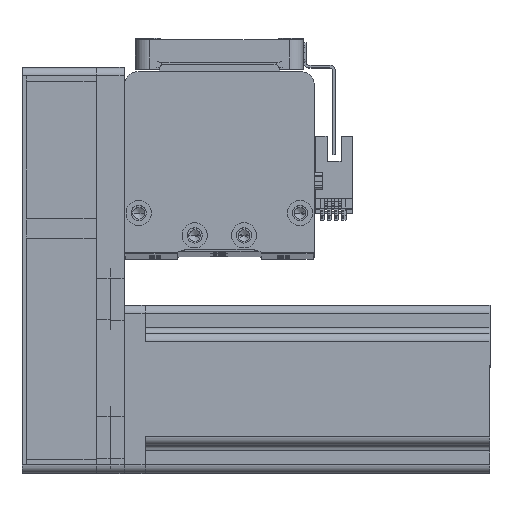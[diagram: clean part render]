
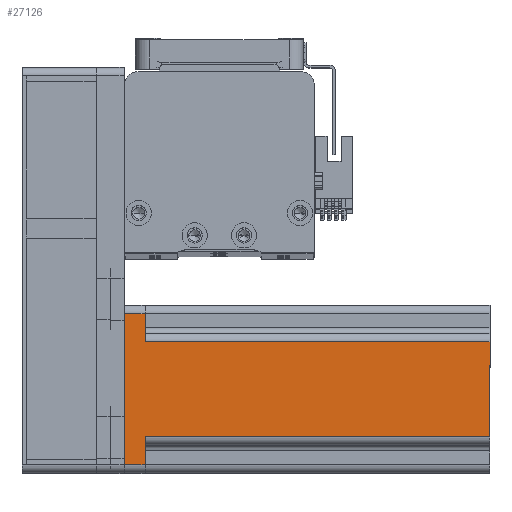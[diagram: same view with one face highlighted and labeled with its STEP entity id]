
A CAD part, top view. The second image highlights one B-rep face of the part: STEP entity #27126.
In plain terms, the highlighted planar face has unit normal (0, 0, 1) as drawn and (0, -1, 0) by its records, which use the part's own axes.
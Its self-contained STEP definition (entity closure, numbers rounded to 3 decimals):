
#599 = ORIENTED_EDGE ( 'NONE', *, *, #28586, .T. ) ;
#944 = AXIS2_PLACEMENT_3D ( 'NONE', #41539, #18143, #45456 ) ;
#2460 = ORIENTED_EDGE ( 'NONE', *, *, #18374, .T. ) ;
#3584 = VERTEX_POINT ( 'NONE', #50164 ) ;
#3692 = VECTOR ( 'NONE', #37699, 1000. ) ;
#3914 = CARTESIAN_POINT ( 'NONE',  ( 20., -30., 7.5 ) ) ;
#4380 = VERTEX_POINT ( 'NONE', #33176 ) ;
#5533 = DIRECTION ( 'NONE',  ( 1., 0., 0. ) ) ;
#6134 = CARTESIAN_POINT ( 'NONE',  ( 27., -30., 130.7 ) ) ;
#6614 = ORIENTED_EDGE ( 'NONE', *, *, #49919, .F. ) ;
#6830 = LINE ( 'NONE', #24925, #26299 ) ;
#7861 = CARTESIAN_POINT ( 'NONE',  ( 17., -30., 130.7 ) ) ;
#8470 = ORIENTED_EDGE ( 'NONE', *, *, #45573, .T. ) ;
#8515 = DIRECTION ( 'NONE',  ( 1., 0., 0. ) ) ;
#8753 = LINE ( 'NONE', #7861, #27059 ) ;
#8825 = EDGE_CURVE ( 'NONE', #25450, #42089, #50221, .T. ) ;
#9721 = CARTESIAN_POINT ( 'NONE',  ( -17., -30., 7.5 ) ) ;
#10812 = VERTEX_POINT ( 'NONE', #46953 ) ;
#12400 = VECTOR ( 'NONE', #41220, 1000. ) ;
#12677 = ORIENTED_EDGE ( 'NONE', *, *, #33015, .T. ) ;
#14389 = VECTOR ( 'NONE', #39716, 1000. ) ;
#16678 = VECTOR ( 'NONE', #8515, 1000. ) ;
#17037 = VERTEX_POINT ( 'NONE', #47899 ) ;
#17873 = CARTESIAN_POINT ( 'NONE',  ( -27., -30., 0. ) ) ;
#18143 = DIRECTION ( 'NONE',  ( 0., 1., 0. ) ) ;
#18374 = EDGE_CURVE ( 'NONE', #4380, #47189, #22800, .T. ) ;
#18764 = VECTOR ( 'NONE', #30975, 1000. ) ;
#19420 = ORIENTED_EDGE ( 'NONE', *, *, #26845, .F. ) ;
#20227 = CARTESIAN_POINT ( 'NONE',  ( -27., -30., 130.7 ) ) ;
#22800 = LINE ( 'NONE', #6134, #12400 ) ;
#23361 = EDGE_LOOP ( 'NONE', ( #19420, #8470, #6614, #34100, #12677, #2460, #599, #27403 ) ) ;
#23792 = VERTEX_POINT ( 'NONE', #9721 ) ;
#24750 = LINE ( 'NONE', #3914, #14389 ) ;
#24925 = CARTESIAN_POINT ( 'NONE',  ( -20., -30., 7.5 ) ) ;
#25450 = VERTEX_POINT ( 'NONE', #40521 ) ;
#25844 = PLANE ( 'NONE',  #944 ) ;
#26299 = VECTOR ( 'NONE', #5533, 1000. ) ;
#26435 = CARTESIAN_POINT ( 'NONE',  ( 30., -30., 0. ) ) ;
#26845 = EDGE_CURVE ( 'NONE', #10812, #3584, #37457, .T. ) ;
#27032 = FACE_OUTER_BOUND ( 'NONE', #23361, .T. ) ;
#27059 = VECTOR ( 'NONE', #39049, 1000. ) ;
#27126 = ADVANCED_FACE ( 'NONE', ( #27032 ), #25844, .F. ) ;
#27232 = CARTESIAN_POINT ( 'NONE',  ( -17., -30., 130.7 ) ) ;
#27403 = ORIENTED_EDGE ( 'NONE', *, *, #35611, .T. ) ;
#28586 = EDGE_CURVE ( 'NONE', #47189, #17037, #24750, .T. ) ;
#30975 = DIRECTION ( 'NONE',  ( 0., 0., -1. ) ) ;
#31843 = CARTESIAN_POINT ( 'NONE',  ( 30., -30., 130.7 ) ) ;
#33015 = EDGE_CURVE ( 'NONE', #42089, #4380, #33571, .T. ) ;
#33176 = CARTESIAN_POINT ( 'NONE',  ( 27., -30., 0. ) ) ;
#33571 = LINE ( 'NONE', #26435, #3692 ) ;
#34100 = ORIENTED_EDGE ( 'NONE', *, *, #8825, .T. ) ;
#35611 = EDGE_CURVE ( 'NONE', #17037, #3584, #8753, .T. ) ;
#37457 = LINE ( 'NONE', #31843, #16678 ) ;
#37699 = DIRECTION ( 'NONE',  ( 1., 0., 0. ) ) ;
#39049 = DIRECTION ( 'NONE',  ( 0., 0., 1. ) ) ;
#39716 = DIRECTION ( 'NONE',  ( -1., 0., 0. ) ) ;
#40521 = CARTESIAN_POINT ( 'NONE',  ( -27., -30., 7.5 ) ) ;
#41220 = DIRECTION ( 'NONE',  ( 0., 0., 1. ) ) ;
#41539 = CARTESIAN_POINT ( 'NONE',  ( 30., -30., 130.7 ) ) ;
#42089 = VERTEX_POINT ( 'NONE', #17873 ) ;
#44098 = CARTESIAN_POINT ( 'NONE',  ( 27., -30., 7.5 ) ) ;
#45456 = DIRECTION ( 'NONE',  ( -1., 0., 0. ) ) ;
#45573 = EDGE_CURVE ( 'NONE', #10812, #23792, #48673, .T. ) ;
#46953 = CARTESIAN_POINT ( 'NONE',  ( -17., -30., 130.7 ) ) ;
#47189 = VERTEX_POINT ( 'NONE', #44098 ) ;
#47359 = DIRECTION ( 'NONE',  ( 0., 0., -1. ) ) ;
#47899 = CARTESIAN_POINT ( 'NONE',  ( 17., -30., 7.5 ) ) ;
#48673 = LINE ( 'NONE', #27232, #18764 ) ;
#48978 = VECTOR ( 'NONE', #47359, 1000. ) ;
#49919 = EDGE_CURVE ( 'NONE', #25450, #23792, #6830, .T. ) ;
#50164 = CARTESIAN_POINT ( 'NONE',  ( 17., -30., 130.7 ) ) ;
#50221 = LINE ( 'NONE', #20227, #48978 ) ;
